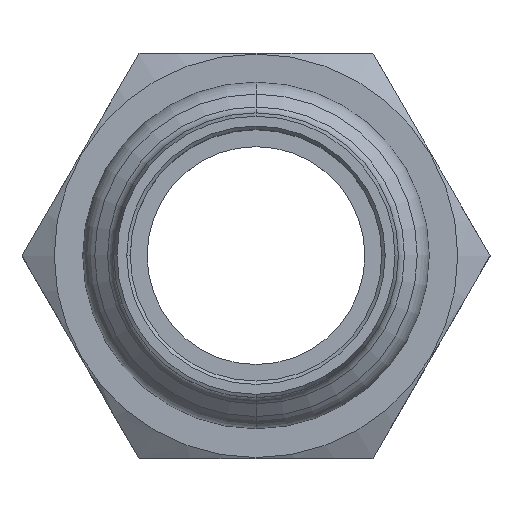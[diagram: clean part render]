
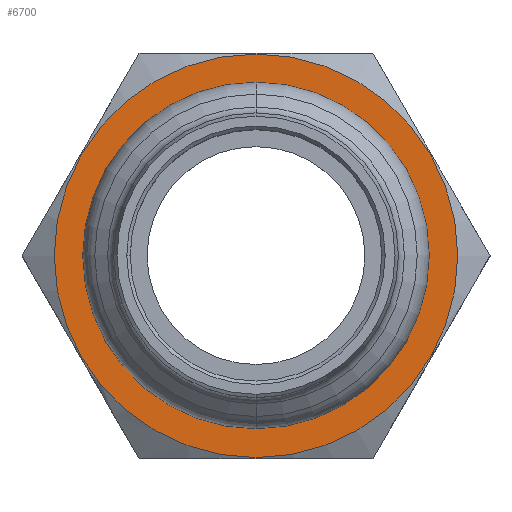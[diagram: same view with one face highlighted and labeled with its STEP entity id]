
A CAD part, top view. The second image highlights one B-rep face of the part: STEP entity #6700.
In plain terms, the highlighted planar face has unit normal (0, 0, 1) as drawn and (1, 0, 0) by its records, which use the part's own axes.
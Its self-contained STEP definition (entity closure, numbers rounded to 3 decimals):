
#3580=CARTESIAN_POINT('',(-53.271,119.293,0.));
#3590=VERTEX_POINT('',#3580);
#6310=CARTESIAN_POINT('',(-53.271,83.447,
0.));
#6320=VERTEX_POINT('',#6310);
#6350=CARTESIAN_POINT('',(-53.271,101.37,0.));
#6360=DIRECTION('',(-1.,0.,0.));
#6370=DIRECTION('',(0.,-1.,0.));
#6380=AXIS2_PLACEMENT_3D('',#6350,#6360,#6370);
#6390=CIRCLE('',#6380,17.923);
#6400=EDGE_CURVE('',#3590,#6320,#6390,.T.);
#6450=CARTESIAN_POINT('',(-53.271,92.409,0.));
#6460=DIRECTION('',(-1.,0.,-0.));
#6470=DIRECTION('',(0.,1.,0.));
#6480=AXIS2_PLACEMENT_3D('',#6450,#6460,#6470);
#6490=PLANE('',#6480);
#6500=EDGE_CURVE('',#6320,#3590,#6390,.T.);
#6510=ORIENTED_EDGE('',*,*,#6500,.F.);
#6520=ORIENTED_EDGE('',*,*,#6400,.F.);
#6530=EDGE_LOOP('',(#6520,#6510));
#6540=FACE_OUTER_BOUND('',#6530,.T.);
#6550=CARTESIAN_POINT('',(-53.271,101.37,
0.));
#6560=DIRECTION('',(1.,0.,0.));
#6570=DIRECTION('',(0.,-1.,0.));
#6580=AXIS2_PLACEMENT_3D('',#6550,#6560,#6570);
#6590=CIRCLE('',#6580,14.677);
#6600=CARTESIAN_POINT('',(-53.271,86.693,
0.));
#6610=VERTEX_POINT('',#6600);
#6620=CARTESIAN_POINT('',(-53.271,116.047,
0.));
#6630=VERTEX_POINT('',#6620);
#6640=EDGE_CURVE('',#6610,#6630,#6590,.T.);
#6650=ORIENTED_EDGE('',*,*,#6640,.F.);
#6660=EDGE_CURVE('',#6630,#6610,#6590,.T.);
#6670=ORIENTED_EDGE('',*,*,#6660,.F.);
#6680=EDGE_LOOP('',(#6670,#6650));
#6690=FACE_BOUND('',#6680,.T.);
#6700=ADVANCED_FACE('',(#6540,#6690),#6490,.F.);
